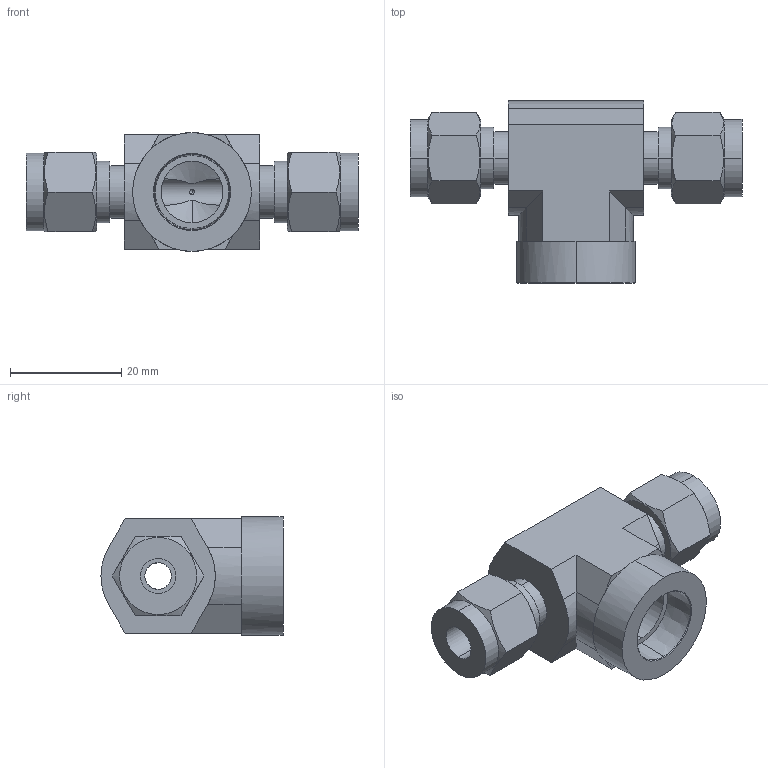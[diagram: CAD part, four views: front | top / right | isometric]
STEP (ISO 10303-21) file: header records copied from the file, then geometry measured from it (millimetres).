
FILE_DESCRIPTION (( 'STEP AP203' ), '1' );
FILE_NAME ('DTH04-04 SS.STEP', '2009-10-26T05:48:21', ( ' ' ), ( '' ), 'SwSTEP 2.0', 'SolidWorks 2008', '' );
FILE_SCHEMA (( 'CONFIG_CONTROL_DESIGN' ));
Length unit declared in the file: millimetre
Products named in the file (1): DTH04-04 SS
Bounding box: 59.8 x 32.8 x 21.4 mm (x, y, z)
Volume: 14827.5 mm3; surface area: 6996.2 mm2
Topology: 1 solids, 1 shells, 89 faces, 214 edges, 134 vertices
Faces by surface type: plane 44, cylinder 28, cone 17
Entity records: 2950 total; most frequent: CARTESIAN_POINT 825, ORIENTED_EDGE 424, DIRECTION 421, EDGE_CURVE 212, AXIS2_PLACEMENT_3D 160, VERTEX_POINT 134, EDGE_LOOP 102, LINE 101
